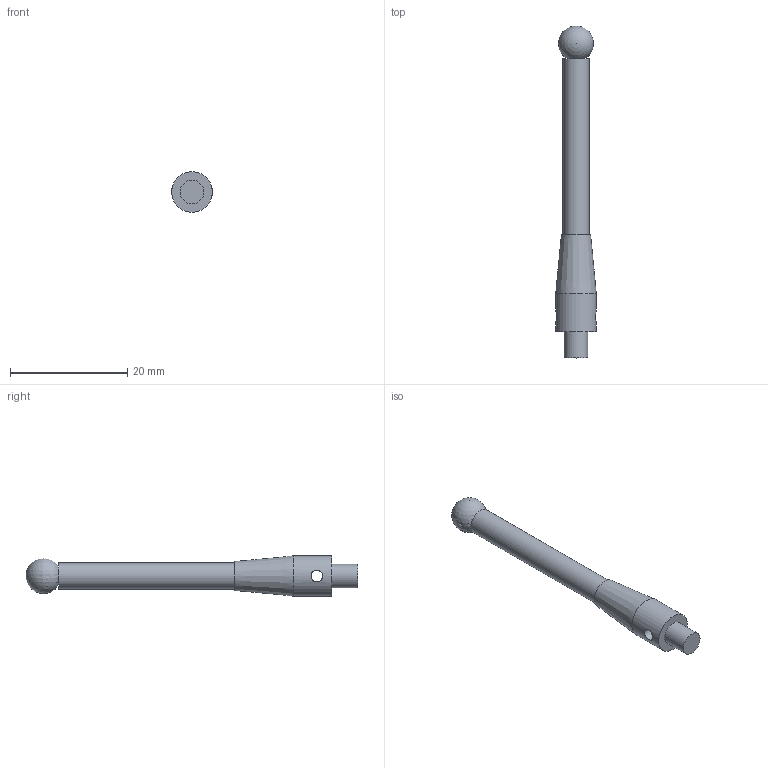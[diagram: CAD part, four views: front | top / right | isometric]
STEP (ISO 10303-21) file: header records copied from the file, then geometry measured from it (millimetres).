
FILE_DESCRIPTION(/* description */ (''),/* implementation_level */ '2;1');
FILE_NAME(/* name */ '',/* time_stamp */ '2024-10-22T17:27:00+03:00',/* author */ ('User'),/* organization */ (''),/* preprocessor_version */ 'ST-DEVELOPER v19.2',/* originating_system */ 'Autodesk Inventor 2024',/* authorisation */ '');
FILE_SCHEMA (('AUTOMOTIVE_DESIGN { 1 0 10303 214 3 1 1 }'));
Length unit declared in the file: millimetre
Products named in the file (1): Щуп измерительный 
Т-40А ВТ30 (М4х6
х50)
Bounding box: 6.9 x 56.58 x 6.9 mm (x, y, z)
Volume: 1147.4 mm3; surface area: 1001 mm2
Topology: 1 solids, 1 shells, 10 faces, 22 edges, 15 vertices
Faces by surface type: cylinder 4, plane 4, cone 1, sphere 1
Full cylindrical faces by diameter (mm): 2 x1, 4 x1, 4.5 x1, 6.9 x1
Entity records: 415 total; most frequent: CARTESIAN_POINT 115, DIRECTION 46, ORIENTED_EDGE 40, EDGE_CURVE 20, AXIS2_PLACEMENT_3D 20, EDGE_LOOP 15, VERTEX_POINT 15, FACE_OUTER_BOUND 10
